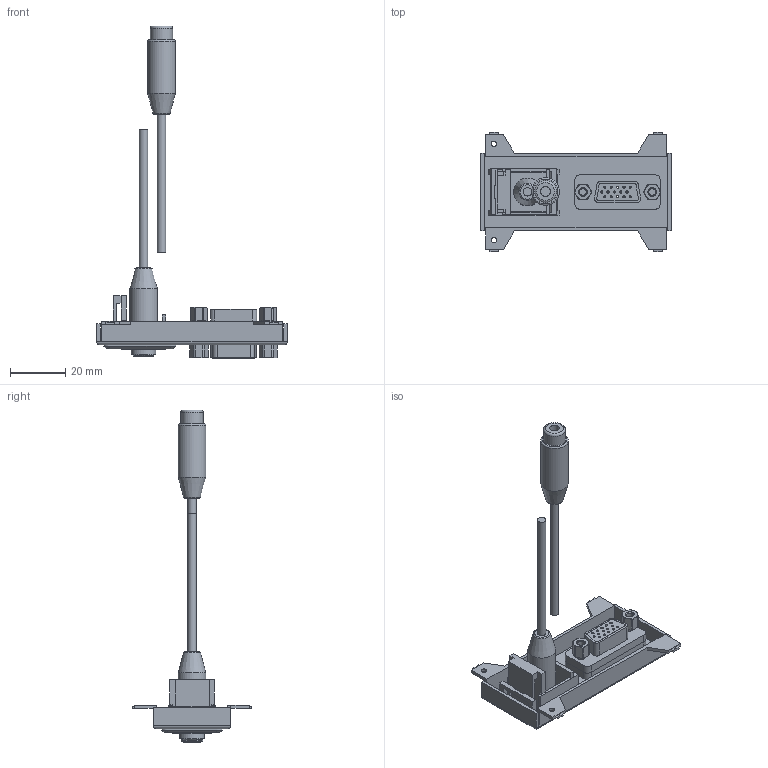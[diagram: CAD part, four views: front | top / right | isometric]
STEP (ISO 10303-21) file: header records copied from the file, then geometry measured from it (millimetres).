
FILE_DESCRIPTION(('FreeCAD Model'),'2;1');
FILE_NAME('Open CASCADE Shape Model','2026-09-28T11:10:51',(''),(''), 'Open CASCADE STEP processor 7.8','FreeCAD','Unknown');
FILE_SCHEMA(('AUTOMOTIVE_DESIGN { 1 0 10303 214 1 1 1 1 }'));
Length unit declared in the file: millimetre
Products named in the file (16): BTK_HD1535M; P_201805; TB-037_3013BUS12xx_SD; P-201805; #440-1; #440-2; #440-3; #440-4; DG_H15FF_440; Body; Body001; SICC-35MFTF-ST-200; FW-405-35PHJ-FF-20CM_1; SICC-35MFTF-ST-200-S; FW-405-35PHJ-FF-20CM_R; SICC-35MFTF-ST-200_P2
Assembly tree (15 placements, depth 3):
  BTK_HD1535M
    P_201805
      TB-037_3013BUS12xx_SD
      P-201805
    #440-1
    #440-2
    #440-3
    #440-4
    DG_H15FF_440
      Body
      Body001
    SICC-35MFTF-ST-200
      FW-405-35PHJ-FF-20CM_1
      SICC-35MFTF-ST-200-S
      FW-405-35PHJ-FF-20CM_R
    SICC-35MFTF-ST-200_P2
Bounding box: 68.7 x 43.2 x 119.8 mm (x, y, z)
Volume: 14712.3 mm3; surface area: 17428.7 mm2
Topology: 12 solids, 12 shells, 451 faces, 1174 edges, 757 vertices
Faces by surface type: plane 163, cylinder 125, bspline 98, cone 60, torus 5
Full cylindrical faces by diameter (mm): 0.8 x30, 2 x4, 2.46 x6, 2.7 x4, 3 x4, 3.5 x2, 7.8 x1, 8 x1, 8.1 x1, 9 x1, 10 x2
Entity records: 18307 total; most frequent: CARTESIAN_POINT 7227, ORIENTED_EDGE 2344, DIRECTION 2016, EDGE_CURVE 1172, VERTEX_POINT 757, AXIS2_PLACEMENT_3D 749, FACE_BOUND 557, EDGE_LOOP 557
